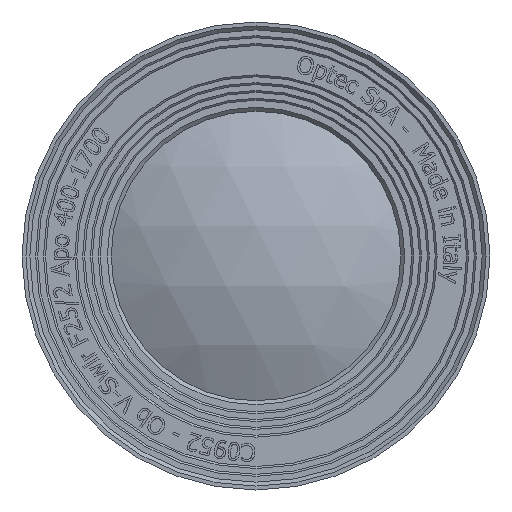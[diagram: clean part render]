
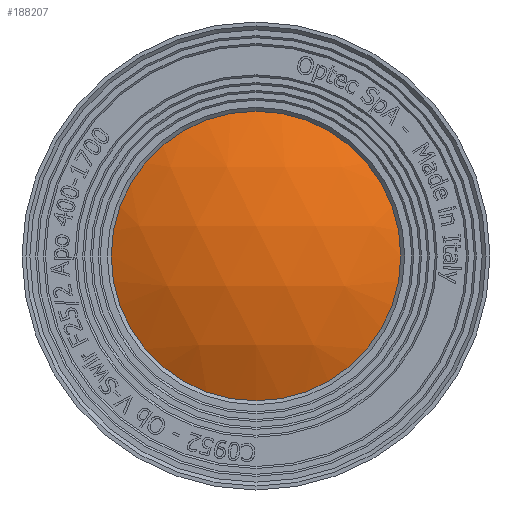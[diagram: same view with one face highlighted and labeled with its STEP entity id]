
A CAD part, left-side view. The second image highlights one B-rep face of the part: STEP entity #188207.
In plain terms, the highlighted spherical face has radius 40.567 mm.
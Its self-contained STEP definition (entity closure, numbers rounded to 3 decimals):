
#188175=CARTESIAN_POINT('',(-25.261,-1.728,0.0));
#188176=VERTEX_POINT('',#188175);
#188177=CARTESIAN_POINT('',(-25.261,16.772,0.0));
#188178=DIRECTION('',(-1.0,0.0,0.0));
#188179=DIRECTION('',(0.0,-1.0,0.0));
#188180=AXIS2_PLACEMENT_3D('',#188177,#188178,#188179);
#188181=CIRCLE('',#188180,18.5);
#188182=EDGE_CURVE('',#188176,#188176,#188181,.T.);
#188199=CARTESIAN_POINT('',(10.843,16.772,0.0));
#188200=DIRECTION('',(0.0,0.0,1.0));
#188201=DIRECTION('',(1.0,0.0,0.0));
#188202=AXIS2_PLACEMENT_3D('',#188199,#188200,#188201);
#188203=SPHERICAL_SURFACE('',#188202,40.567);
#188204=ORIENTED_EDGE('',*,*,#188182,.T.);
#188205=EDGE_LOOP('',(#188204));
#188206=FACE_OUTER_BOUND('',#188205,.T.);
#188207=ADVANCED_FACE('',(#188206),#188203,.T.);
